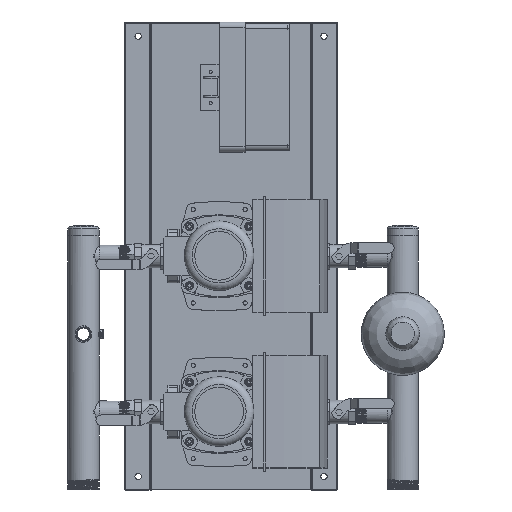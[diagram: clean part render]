
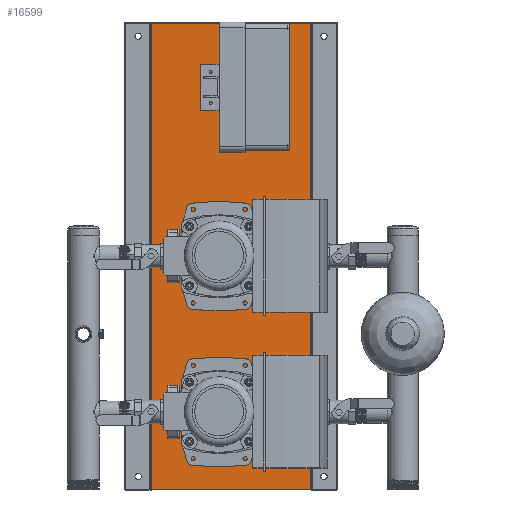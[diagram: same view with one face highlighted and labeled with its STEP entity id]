
A CAD part, top view. The second image highlights one B-rep face of the part: STEP entity #16599.
In plain terms, the highlighted planar face has unit normal (0, 0, 1).
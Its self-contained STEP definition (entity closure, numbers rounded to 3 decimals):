
#1985=PLANE($,#17731);
#2545=LINE($,#24309,#3425);
#2561=LINE($,#24385,#3441);
#2584=LINE($,#24500,#3464);
#2585=LINE($,#24502,#3465);
#3425=VECTOR($,#19646,306.);
#3441=VECTOR($,#19714,306.);
#3464=VECTOR($,#19819,898.);
#3465=VECTOR($,#19822,898.);
#4670=FACE_OUTER_BOUND($,#5608,.T.);
#5608=EDGE_LOOP($,(#12072,#12073,#12074,#12075));
#7866=VERTEX_POINT($,#24299);
#7868=VERTEX_POINT($,#24305);
#7882=VERTEX_POINT($,#24375);
#7884=VERTEX_POINT($,#24381);
#9588=EDGE_CURVE($,#7866,#7868,#2545,.T.);
#9620=EDGE_CURVE($,#7882,#7884,#2561,.T.);
#9668=EDGE_CURVE($,#7868,#7882,#2584,.T.);
#9669=EDGE_CURVE($,#7884,#7866,#2585,.T.);
#12072=ORIENTED_EDGE($,*,*,#9588,.F.);
#12073=ORIENTED_EDGE($,*,*,#9669,.F.);
#12074=ORIENTED_EDGE($,*,*,#9620,.F.);
#12075=ORIENTED_EDGE($,*,*,#9668,.F.);
#16599=ADVANCED_FACE($,(#4670),#1985,.T.);
#17731=AXIS2_PLACEMENT_3D($,#24501,#19820,#19821);
#19646=DIRECTION($,(-1.,0.,0.));
#19714=DIRECTION($,(1.,0.,0.));
#19819=DIRECTION($,(0.,1.,0.));
#19820=DIRECTION('center_axis',(0.,0.,1.));
#19821=DIRECTION('ref_axis',(1.,0.,0.));
#19822=DIRECTION($,(0.,-1.,0.));
#24299=CARTESIAN_POINT('',(-52.,1.,60.02));
#24305=CARTESIAN_POINT('',(-358.,1.,60.02));
#24309=CARTESIAN_POINT($,(-282.5,1.,60.02));
#24375=CARTESIAN_POINT('',(-358.,899.,60.02));
#24381=CARTESIAN_POINT('',(-52.,899.,60.02));
#24385=CARTESIAN_POINT($,(-282.5,899.,60.02));
#24500=CARTESIAN_POINT($,(-358.,0.,60.02));
#24501=CARTESIAN_POINT('Origin',(-360.,0.,60.02));
#24502=CARTESIAN_POINT($,(-52.,0.,60.02));
